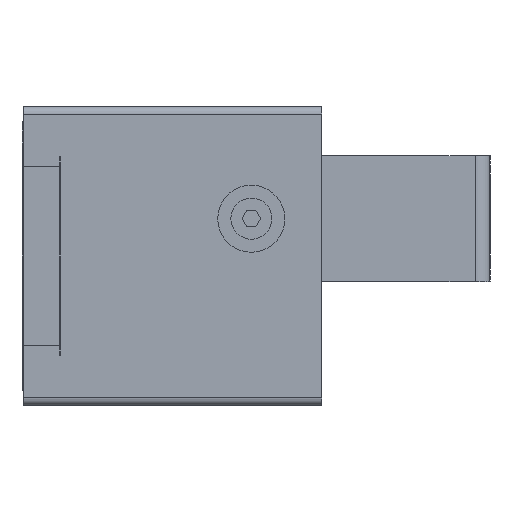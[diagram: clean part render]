
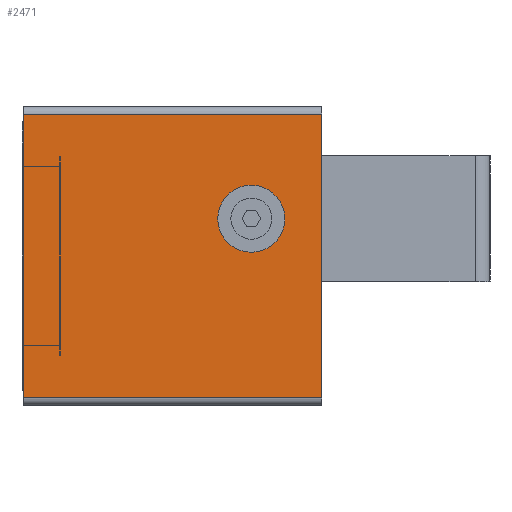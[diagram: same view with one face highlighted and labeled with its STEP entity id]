
A CAD part, left-side view. The second image highlights one B-rep face of the part: STEP entity #2471.
In plain terms, the highlighted planar face has unit normal (-1, 0, 0).
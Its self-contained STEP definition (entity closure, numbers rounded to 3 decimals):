
#155=LINE('',#3808,#390);
#206=LINE('',#3997,#441);
#207=LINE('',#4000,#442);
#208=LINE('',#4003,#443);
#390=VECTOR('',#3031,10.);
#441=VECTOR('',#3200,10.);
#442=VECTOR('',#3203,10.);
#443=VECTOR('',#3208,10.);
#567=FACE_BOUND('',#814,.T.);
#651=FACE_OUTER_BOUND('',#813,.T.);
#813=EDGE_LOOP('',(#1948,#1949,#1950,#1951));
#814=EDGE_LOOP('',(#1952));
#953=CIRCLE('',#2694,4.5);
#1088=VERTEX_POINT('',#3805);
#1089=VERTEX_POINT('',#3807);
#1134=VERTEX_POINT('',#3995);
#1135=VERTEX_POINT('',#3999);
#1137=VERTEX_POINT('',#4008);
#1345=EDGE_CURVE('',#1089,#1088,#155,.T.);
#1422=EDGE_CURVE('',#1088,#1134,#206,.T.);
#1423=EDGE_CURVE('',#1089,#1135,#207,.T.);
#1425=EDGE_CURVE('',#1135,#1134,#208,.T.);
#1427=EDGE_CURVE('',#1137,#1137,#953,.T.);
#1948=ORIENTED_EDGE('',*,*,#1345,.T.);
#1949=ORIENTED_EDGE('',*,*,#1422,.T.);
#1950=ORIENTED_EDGE('',*,*,#1425,.F.);
#1951=ORIENTED_EDGE('',*,*,#1423,.F.);
#1952=ORIENTED_EDGE('',*,*,#1427,.T.);
#2351=PLANE('',#2693);
#2471=ADVANCED_FACE('',(#651,#567),#2351,.T.);
#2693=AXIS2_PLACEMENT_3D('',#4007,#3213,#3214);
#2694=AXIS2_PLACEMENT_3D('',#4009,#3215,#3216);
#3031=DIRECTION('',(0.,0.,1.));
#3200=DIRECTION('',(0.,1.,0.));
#3203=DIRECTION('',(0.,1.,0.));
#3208=DIRECTION('',(0.,0.,1.));
#3213=DIRECTION('center_axis',(-1.,0.,0.));
#3214=DIRECTION('ref_axis',(0.,0.,
1.));
#3215=DIRECTION('center_axis',(1.,0.,0.));
#3216=DIRECTION('ref_axis',(0.,0.,-1.));
#3805=CARTESIAN_POINT('',(-3.177,0.,-1203.948));
#3807=CARTESIAN_POINT('',(-3.177,0.,-1241.948));
#3808=CARTESIAN_POINT('',(-3.177,0.,-1241.948));
#3995=CARTESIAN_POINT('',(-3.177,40.,-1203.948));
#3997=CARTESIAN_POINT('',(-3.177,0.,-1203.948));
#3999=CARTESIAN_POINT('',(-3.177,40.,-1241.948));
#4000=CARTESIAN_POINT('',(-3.177,0.,-1241.948));
#4003=CARTESIAN_POINT('',(-3.177,40.,-1241.948));
#4007=CARTESIAN_POINT('Origin',(-3.177,0.,
-1241.948));
#4008=CARTESIAN_POINT('',(-3.177,9.45,-1213.448));
#4009=CARTESIAN_POINT('Origin',(-3.177,9.45,-1217.948));
